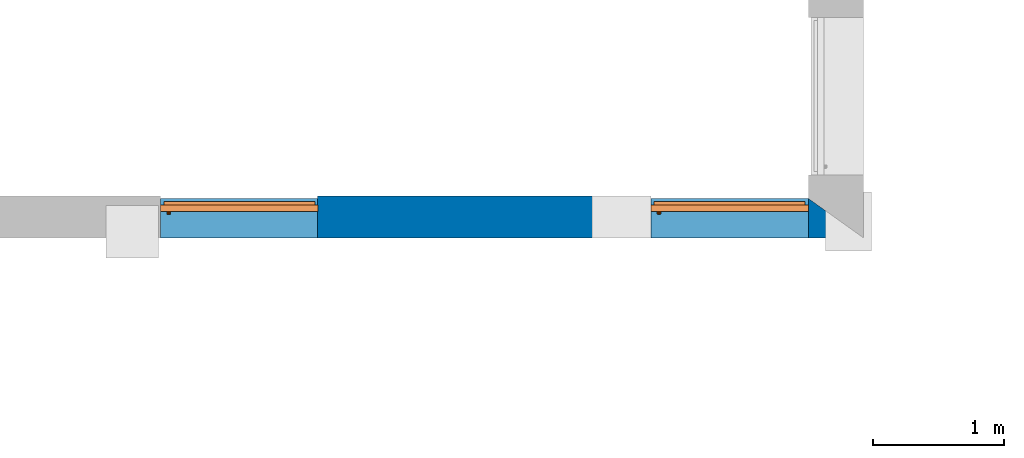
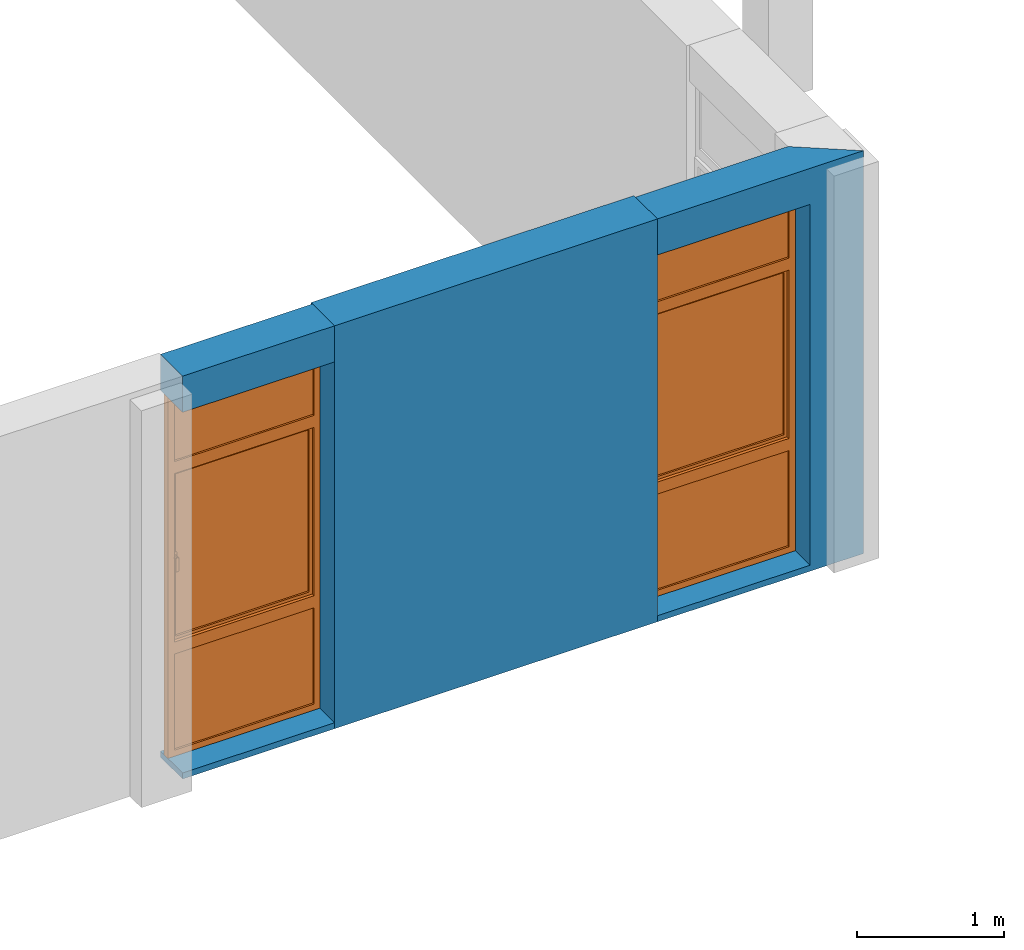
# One storey, part 6 of 11: 3 walls, 2 proxies, 2 openings.
"""IFC2X3 building model written with IfcOpenShell, lengths in millimetres."""

from ifc_helpers import new_model, entity, si_unit, converted_unit, derived_unit, money_unit, direction, frame, origin_with_axes, origin_2d_with_axis, place, context, subcontext, project, spatial, polyline, rectangle, outline, extrude, open_shell, faceted_brep, surface_model, source, transform, mapped, material, layer, layer_set, layer_usage, type_object, element, fill, save


model = new_model("IFC2X3")

# Units and contexts
model_context = context("Model", 3, precision=0.01, world=origin_with_axes(), true_north=direction((0.0, 1.0)))
body_context = subcontext(model_context, "Body", "Model", "MODEL_VIEW")
ifc_project = project(units=[si_unit("LENGTHUNIT", "METRE", prefix="MILLI"), si_unit("AREAUNIT", "SQUARE_METRE"), si_unit("VOLUMEUNIT", "CUBIC_METRE"), converted_unit("PLANEANGLEUNIT", "DEGREE", entity("IfcPlaneAngleMeasure", 0.0174532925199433), si_unit("PLANEANGLEUNIT", "RADIAN"), dimensions=[0, 0, 0, 0, 0, 0, 0]), money_unit("USD"), converted_unit("TIMEUNIT", "Year", entity("IfcTimeMeasure", 31557600.0), si_unit("TIMEUNIT", "SECOND"), dimensions=[0, 0, 1, 0, 0, 0, 0]), si_unit("MASSUNIT", "GRAM", prefix="KILO"), si_unit("THERMODYNAMICTEMPERATUREUNIT", "DEGREE_CELSIUS"), si_unit("LUMINOUSINTENSITYUNIT", "LUMEN"), si_unit("ENERGYUNIT", "JOULE", prefix="MEGA"), derived_unit("THERMALCONDUCTANCEUNIT", [(si_unit("POWERUNIT", "WATT"), 1), (si_unit("LENGTHUNIT", "METRE"), -1), (si_unit("THERMODYNAMICTEMPERATUREUNIT", "KELVIN"), -1)]), derived_unit("SPECIFICHEATCAPACITYUNIT", [(si_unit("ENERGYUNIT", "JOULE"), 1), (si_unit("MASSUNIT", "GRAM", prefix="KILO"), -1), (si_unit("THERMODYNAMICTEMPERATUREUNIT", "KELVIN"), -1)]), derived_unit("MASSDENSITYUNIT", [(si_unit("MASSUNIT", "GRAM", prefix="KILO"), 1), (si_unit("VOLUMEUNIT", "CUBIC_METRE"), -1)])], contexts=[model_context])

# Site, building, storey
site_placement = place(None, origin_with_axes())
site = spatial("IfcSite", under=ifc_project, at=site_placement, Name="Sitio", CompositionType="ELEMENT")
building_placement = place(site_placement, origin_with_axes())
building = spatial("IfcBuilding", under=site, at=building_placement, Name="Construcción", CompositionType="ELEMENT")
storey_placement = place(building_placement, frame((0.0, 0.0, -3650.0), z_axis=(0.0, 0.0, 1.0), x_axis=(1.0, 0.0, 0.0)))
storey = spatial("IfcBuildingStorey", under=building, at=storey_placement, Name="-1. Piso", CompositionType="ELEMENT", Elevation=-3650.0)

# Wall, opening, proxy
ifc_material_1 = material(Name="ARQ_AM246_Arrebossat_De_Guix")
ifc_layer_1 = layer(ifc_material_1, 20.0, ventilated="UNKNOWN")
ifc_material_2 = material(Name="ARQ_CE217_Gero")
ifc_layer_2 = layer(ifc_material_2, 110.0, ventilated="UNKNOWN")
ifc_material_3 = material(Name="ARQ_AI031_Aillament_Poliestireno expandido EPS")
ifc_layer_3 = layer(ifc_material_3, 100.0, ventilated="UNKNOWN")
ifc_material_4 = material(Name="ARQ_CE218_Ceramic")
ifc_layer_4 = layer(ifc_material_4, 50.0, ventilated="UNKNOWN")
ifc_layer_5 = layer(ifc_material_1, 20.0, ventilated="UNKNOWN")
ifc_layer_set_1 = layer_set([ifc_layer_1, ifc_layer_2, ifc_layer_3, ifc_layer_4, ifc_layer_5], Name="façana pati CR3 (ampit)")
ifc_layer_usage_1 = layer_usage(ifc_layer_set_1, "AXIS2", "POSITIVE", -300.0000000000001)
wall_type_1 = type_object("IfcWallType", Name="façana pati CR3 (ampit) 300", PredefinedType="NOTDEFINED")
wall_1_placement = place(storey_placement, frame((-5841.109004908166, -12338.97582371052, 0.0), z_axis=(0.0, 0.0, 1.0), x_axis=(-1.0, 0.0, 0.0)))
wall_1 = element("IfcWallStandardCase", 1, at=wall_1_placement, inside=storey, type_object=wall_type_1, material=ifc_layer_usage_1, Name="MS-201", context=body_context, shape_type="SweptSolid", body=[
    extrude(outline(polyline([(0.0, -300.0000000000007), (1194.999999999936, -300.0000000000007), (1194.999999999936, 0.0), (0.0, 0.0), (0.0, -300.0000000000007)])), origin_with_axes(), (0.0, 0.0, 1.0), 3350.0),
])
opening_1_placement = place(wall_1_placement, frame((594.9999999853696, 0.0, 49.99999999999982), z_axis=(0.0, 0.0, 1.0), x_axis=(1.0, 0.0, 0.0)))
opening_1 = element("IfcOpeningElement", 2, at=opening_1_placement, cuts=wall_1, Name="V - 008", context=body_context, shape_type="SweptSolid", body=[
    extrude(rectangle(XDim=1200.000000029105, YDim=3000.0, at=origin_2d_with_axis()), frame((0.0, -250.0, 1500.0), z_axis=(0.0, -1.0, 0.0), x_axis=(-1.0, 0.0, 0.0)), (0.0, 0.0, -1.0), 550.0),
    extrude(rectangle(XDim=1200.000000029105, YDim=3000.0, at=origin_2d_with_axis()), frame((0.0, -250.0, 1500.0), z_axis=(0.0, 1.0, 0.0), x_axis=(-1.0, 0.0, 0.0)), (0.0, 0.0, -1.0), 350.0000000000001),
])
building_element_proxy_type = type_object("IfcBuildingElementProxyType", Name="Ventana Vertical Multi-Faja 27", PredefinedType="NOTDEFINED")
shared_shape = source(origin_with_axes(), body_context, "Body", "SurfaceModel", [
    faceted_brep([(-575.0000000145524, 0.0, 925.0), (-550.0000000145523, 0.0, 925.0), (-550.0000000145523, 0.0, 850.0), (-550.0000000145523, 0.0, 50.00000000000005), (-600.0000000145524, 0.0, 50.00000000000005), (-600.0000000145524, 0.0, 2950.0), (-550.0000000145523, 0.0, 2950.0), (-550.0000000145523, 0.0, 2450.0), (-550.0000000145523, 0.0, 2375.0), (-575.0000000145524, 0.0, 2375.0), (-575.0000000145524, -25.00000000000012, 925.0), (-550.0000000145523, -25.00000000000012, 925.0), (-550.0000000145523, -25.00000000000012, 950.0000000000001), (-550.0000000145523, -50.00000000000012, 950.0000000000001), (-550.0000000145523, -50.00000000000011, 850.0), (-550.0000000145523, -50.00000000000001, 50.00000000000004), (-600.0000000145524, -50.00000000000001, 50.00000000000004), (-600.0000000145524, -50.00000000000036, 2950.0), (-550.0000000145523, -50.00000000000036, 2950.0), (-550.0000000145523, -50.0000000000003, 2450.0), (-550.0000000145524, -25.00000000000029, 2375.0), (-550.0000000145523, -50.00000000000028, 2350.0), (-550.0000000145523, -25.00000000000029, 2350.0), (-575.0000000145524, -25.00000000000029, 2375.0)], [[[0, 1, 2, 3, 4, 5, 6, 7, 8, 9]], [[0, 10, 11, 1]], [[11, 12, 13, 14, 2, 1]], [[3, 2, 14, 15]], [[4, 3, 15, 16]], [[5, 4, 16, 17]], [[6, 5, 17, 18]], [[7, 6, 18, 19]], [[20, 8, 7, 19, 21, 22]], [[20, 23, 9, 8]], [[9, 23, 10, 0]], [[22, 12, 11, 10, 23, 20]], [[22, 21, 13, 12]], [[17, 16, 15, 14, 13, 21, 19, 18]]]),
    faceted_brep([(575.0000000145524, 0.0, 925.0), (575.0000000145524, 0.0, 2375.0), (550.0000000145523, 0.0, 2375.0), (550.0000000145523, 0.0, 2450.0), (550.0000000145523, 0.0, 2950.0), (600.0000000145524, 0.0, 2950.0), (600.0000000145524, 0.0, 50.00000000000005), (550.0000000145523, 0.0, 50.00000000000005), (550.0000000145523, 0.0, 850.0), (550.0000000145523, 0.0, 925.0), (575.0000000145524, -25.00000000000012, 925.0), (575.0000000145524, -25.00000000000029, 2375.0), (550.0000000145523, -25.00000000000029, 2375.0), (550.0000000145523, -25.00000000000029, 2350.0), (550.0000000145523, -50.00000000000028, 2350.0), (550.0000000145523, -50.0000000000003, 2450.0), (550.0000000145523, -50.00000000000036, 2950.0), (600.0000000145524, -50.00000000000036, 2950.0), (600.0000000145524, -50.00000000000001, 50.00000000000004), (550.0000000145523, -50.00000000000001, 50.00000000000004), (550.0000000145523, -50.00000000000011, 850.0), (550.0000000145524, -25.00000000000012, 925.0), (550.0000000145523, -50.00000000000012, 950.0000000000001), (550.0000000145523, -25.00000000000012, 950.0000000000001)], [[[0, 1, 2, 3, 4, 5, 6, 7, 8, 9]], [[0, 10, 11, 1]], [[1, 11, 12, 2]], [[12, 13, 14, 15, 3, 2]], [[4, 3, 15, 16]], [[5, 4, 16, 17]], [[6, 5, 17, 18]], [[7, 6, 18, 19]], [[8, 7, 19, 20]], [[21, 9, 8, 20, 22, 23]], [[9, 21, 10, 0]], [[12, 11, 10, 21, 23, 13]], [[23, 22, 14, 13]], [[14, 22, 20, 19, 18, 17, 16, 15]]]),
    faceted_brep([(-550.0000000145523, -25.00000000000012, 950.0000000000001), (-550.0000000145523, -50.00000000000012, 950.0000000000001), (550.0000000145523, -50.00000000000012, 950.0000000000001), (550.0000000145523, -25.00000000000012, 950.0000000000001), (-550.0000000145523, -25.00000000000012, 925.0), (-550.0000000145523, 0.0, 925.0), (-550.0000000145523, 0.0, 850.0), (-550.0000000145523, -50.00000000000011, 850.0), (550.0000000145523, -50.00000000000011, 850.0), (550.0000000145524, -25.00000000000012, 925.0), (550.0000000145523, 0.0, 850.0), (550.0000000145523, 0.0, 925.0)], [[[0, 1, 2, 3]], [[4, 5, 6, 7, 1, 0]], [[1, 7, 8, 2]], [[9, 3, 2, 8, 10, 11]], [[9, 4, 0, 3]], [[5, 4, 9, 11]], [[11, 10, 6, 5]], [[6, 10, 8, 7]]]),
    faceted_brep([(-550.0000000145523, 0.0, 2375.0), (-550.0000000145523, 0.0, 2450.0), (550.0000000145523, 0.0, 2450.0), (550.0000000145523, 0.0, 2375.0), (-550.0000000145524, -25.00000000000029, 2375.0), (-550.0000000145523, -25.00000000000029, 2350.0), (-550.0000000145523, -50.00000000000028, 2350.0), (-550.0000000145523, -50.0000000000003, 2450.0), (550.0000000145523, -50.0000000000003, 2450.0), (550.0000000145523, -25.00000000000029, 2375.0), (550.0000000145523, -50.00000000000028, 2350.0), (550.0000000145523, -25.00000000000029, 2350.0)], [[[0, 1, 2, 3]], [[4, 5, 6, 7, 1, 0]], [[2, 1, 7, 8]], [[9, 3, 2, 8, 10, 11]], [[9, 4, 0, 3]], [[11, 5, 4, 9]], [[11, 10, 6, 5]], [[7, 6, 10, 8]]]),
    faceted_brep([(550.0000000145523, -50.00000000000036, 2950.0), (550.0000000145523, 0.0, 2950.0), (600.0000000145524, 0.0, 2950.0), (600.0000000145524, -50.00000000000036, 2950.0), (-550.0000000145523, -50.00000000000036, 2950.0), (-550.0000000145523, 0.0, 2950.0), (-600.0000000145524, 0.0, 2950.0), (-600.0000000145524, 0.0, 3000.0), (600.0000000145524, 0.0, 3000.0), (600.0000000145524, -50.00000000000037, 3000.0), (-600.0000000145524, -50.00000000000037, 3000.0), (-600.0000000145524, -50.00000000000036, 2950.0)], [[[0, 1, 2, 3]], [[4, 5, 1, 0]], [[1, 5, 6, 7, 8, 2]], [[3, 2, 8, 9]], [[0, 3, 9, 10, 11, 4]], [[11, 6, 5, 4]], [[10, 7, 6, 11]], [[9, 8, 7, 10]]]),
    faceted_brep([(-550.0000000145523, -50.00000000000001, 50.0), (-550.0000000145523, 0.0, 50.00000000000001), (-600.0000000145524, 0.0, 50.00000000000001), (-600.0000000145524, -50.00000000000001, 50.0), (550.0000000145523, -50.00000000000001, 50.0), (550.0000000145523, 0.0, 50.00000000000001), (600.0000000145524, 0.0, 50.00000000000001), (600.0000000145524, 0.0, 0.0), (-600.0000000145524, 0.0, 0.0), (-600.0000000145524, -50.0, 0.0), (600.0000000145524, -50.0, 0.0), (600.0000000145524, -50.00000000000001, 50.0)], [[[0, 1, 2, 3]], [[4, 5, 1, 0]], [[1, 5, 6, 7, 8, 2]], [[3, 2, 8, 9]], [[0, 3, 9, 10, 11, 4]], [[11, 6, 5, 4]], [[10, 7, 6, 11]], [[9, 8, 7, 10]]]),
    surface_model("IfcShellBasedSurfaceModel", [(-550.0000000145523, -35.0, 49.99999999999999), (550.0000000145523, -35.0, 49.99999999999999), (550.0000000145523, -35.0000000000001, 850.0), (-550.0000000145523, -35.0000000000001, 850.0)], [open_shell([[[0, 1, 2, 3]]])]),
    surface_model("IfcShellBasedSurfaceModel", [(-550.0000000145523, -15.0, 49.99999999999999), (-550.0000000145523, -15.0000000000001, 850.0), (550.0000000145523, -15.0000000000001, 850.0), (550.0000000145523, -15.0, 49.99999999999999)], [open_shell([[[0, 1, 2, 3]]])]),
    faceted_brep([(-521.5000000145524, -25.00000000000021, 1677.0), (-522.839745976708, -25.00000000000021, 1682.0), (-522.839745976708, -37.00000000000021, 1682.0), (-521.5000000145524, -37.00000000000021, 1677.0), (-521.5000000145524, -25.0000000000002, 1623.0), (-522.839745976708, -25.0000000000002, 1618.0), (-526.5000000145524, -25.0000000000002, 1614.339745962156), (-531.5000000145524, -25.0000000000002, 1613.0), (-543.5000000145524, -25.0000000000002, 1613.0), (-548.5000000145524, -25.0000000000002, 1614.339745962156), (-552.1602540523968, -25.0000000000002, 1618.0), (-553.5000000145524, -25.0000000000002, 1623.0), (-553.5000000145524, -25.00000000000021, 1677.0), (-552.1602540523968, -25.00000000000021, 1682.0), (-548.5000000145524, -25.00000000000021, 1685.660254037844), (-543.5000000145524, -25.00000000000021, 1687.0), (-531.5000000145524, -25.00000000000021, 1687.0), (-526.5000000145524, -25.00000000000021, 1685.660254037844), (-526.5000000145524, -37.00000000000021, 1685.660254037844), (-531.5000000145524, -37.00000000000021, 1687.0), (-543.5000000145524, -37.00000000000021, 1687.0), (-548.5000000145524, -37.00000000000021, 1685.660254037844), (-552.1602540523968, -37.00000000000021, 1682.0), (-553.5000000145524, -37.00000000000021, 1677.0), (-553.5000000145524, -37.0000000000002, 1623.0), (-552.1602540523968, -37.0000000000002, 1618.0), (-548.5000000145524, -37.0000000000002, 1614.339745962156), (-543.5000000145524, -37.0000000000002, 1613.0), (-531.5000000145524, -37.0000000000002, 1613.0), (-526.5000000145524, -37.0000000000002, 1614.339745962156), (-522.839745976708, -37.0000000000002, 1618.0), (-521.5000000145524, -37.0000000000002, 1623.0)], [[[0, 1, 2, 3]], [[0, 4, 5, 6, 7, 8, 9, 10, 11, 12, 13, 14, 15, 16, 17, 1]], [[1, 17, 18, 2]], [[3, 2, 18, 19, 20, 21, 22, 23, 24, 25, 26, 27, 28, 29, 30, 31]], [[4, 0, 3, 31]], [[5, 4, 31, 30]], [[6, 5, 30, 29]], [[7, 6, 29, 28]], [[8, 7, 28, 27]], [[9, 8, 27, 26]], [[10, 9, 26, 25]], [[11, 10, 25, 24]], [[12, 11, 24, 23]], [[13, 12, 23, 22]], [[14, 13, 22, 21]], [[15, 14, 21, 20]], [[16, 15, 20, 19]], [[17, 16, 19, 18]]]),
    faceted_brep([(-537.5000000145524, -37.0000000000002, 1663.5), (-544.2500000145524, -37.0000000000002, 1661.69134295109), (-544.2500000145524, -61.00000000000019, 1661.69134295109), (-537.5000000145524, -61.00000000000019, 1663.5), (-530.7500000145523, -37.0000000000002, 1661.69134295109), (-525.8086570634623, -37.0000000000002, 1656.75), (-524.0000000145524, -37.0000000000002, 1650.0), (-525.8086570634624, -37.0000000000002, 1643.25), (-530.7500000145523, -37.0000000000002, 1638.30865704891), (-537.5000000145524, -37.0000000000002, 1636.5), (-544.2500000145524, -37.0000000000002, 1638.30865704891), (-549.1913429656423, -37.0000000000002, 1643.25), (-551.0000000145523, -37.0000000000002, 1650.0), (-549.1913429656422, -37.0000000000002, 1656.75), (-549.1913429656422, -61.00000000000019, 1656.75), (-551.0000000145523, -61.00000000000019, 1650.0), (-549.1913429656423, -61.00000000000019, 1643.25), (-544.2500000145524, -61.00000000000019, 1638.30865704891), (-537.5000000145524, -61.00000000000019, 1636.5), (-530.7500000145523, -61.00000000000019, 1638.30865704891), (-525.8086570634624, -61.00000000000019, 1643.25), (-524.0000000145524, -61.00000000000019, 1650.0), (-525.8086570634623, -61.00000000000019, 1656.75), (-530.7500000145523, -61.00000000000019, 1661.69134295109)], [[[0, 1, 2, 3]], [[0, 4, 5, 6, 7, 8, 9, 10, 11, 12, 13, 1]], [[1, 13, 14, 2]], [[3, 2, 14, 15, 16, 17, 18, 19, 20, 21, 22, 23]], [[4, 0, 3, 23]], [[5, 4, 23, 22]], [[6, 5, 22, 21]], [[7, 6, 21, 20]], [[8, 7, 20, 19]], [[9, 8, 19, 18]], [[10, 9, 18, 17]], [[11, 10, 17, 16]], [[12, 11, 16, 15]], [[13, 12, 15, 14]]]),
    faceted_brep([(-526.0000000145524, -61.00000000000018, 1543.0), (-537.5000000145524, -61.00000000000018, 1540.0), (-549.0000000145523, -61.00000000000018, 1543.0), (-551.0000000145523, -61.00000000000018, 1546.0), (-551.0000000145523, -61.00000000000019, 1650.0), (-549.1913429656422, -61.00000000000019, 1656.75), (-544.2500000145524, -61.00000000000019, 1661.69134295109), (-537.5000000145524, -61.00000000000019, 1663.5), (-530.7500000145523, -61.00000000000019, 1661.69134295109), (-525.8086570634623, -61.00000000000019, 1656.75), (-524.0000000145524, -61.00000000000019, 1650.0), (-524.0000000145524, -61.00000000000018, 1546.0), (-525.9999999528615, -69.00000000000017, 1543.000000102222), (-537.4999999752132, -69.00000000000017, 1539.999999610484), (-548.9999999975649, -69.00000000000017, 1543.000000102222), (-551.0000003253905, -69.00000000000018, 1545.999999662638), (-551.0000003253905, -69.0000000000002, 1649.99999994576), (-549.1913430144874, -69.0000000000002, 1656.749999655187), (-544.2499996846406, -69.0000000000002, 1661.691342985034), (-537.4999999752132, -69.0000000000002, 1663.500000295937), (-530.7500002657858, -69.0000000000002, 1661.691342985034), (-525.808656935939, -69.0000000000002, 1656.749999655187), (-523.9999996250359, -69.0000000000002, 1649.99999994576), (-523.9999996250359, -69.00000000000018, 1545.999999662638), (-527.8625374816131, -71.99999956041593, 1545.61451963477), (-537.4999999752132, -71.99999956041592, 1543.100398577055), (-547.1374624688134, -71.99999956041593, 1545.61451963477), (-548.0000007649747, -71.99999956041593, 1546.908326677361), (-548.0000007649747, -71.99999956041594, 1649.605042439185), (-546.5016170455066, -71.99999956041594, 1655.197085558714), (-542.6970855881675, -71.99999956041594, 1659.001617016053), (-537.4999999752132, -71.99999956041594, 1660.394172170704), (-532.302914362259, -71.99999956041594, 1659.001617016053), (-528.4983829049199, -71.99999956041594, 1655.197085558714), (-526.9999991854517, -71.99999956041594, 1649.605042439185), (-526.9999991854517, -71.99999956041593, 1546.908326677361)], [[[0, 1, 2, 3, 4, 5, 6, 7, 8, 9, 10, 11]], [[1, 0, 12, 13]], [[2, 1, 13, 14]], [[3, 2, 14, 15]], [[4, 3, 15, 16]], [[5, 4, 16, 17]], [[6, 5, 17, 18]], [[7, 6, 18, 19]], [[8, 7, 19, 20]], [[9, 8, 20, 21]], [[10, 9, 21, 22]], [[11, 10, 22, 23]], [[0, 11, 23, 12]], [[13, 12, 24, 25]], [[14, 13, 25, 26]], [[15, 14, 26, 27]], [[16, 15, 27, 28]], [[17, 16, 28, 29]], [[18, 17, 29, 30]], [[19, 18, 30, 31]], [[20, 19, 31, 32]], [[21, 20, 32, 33]], [[22, 21, 33, 34]], [[23, 22, 34, 35]], [[12, 23, 35, 24]], [[26, 25, 24, 35, 34, 33, 32, 31, 30, 29, 28, 27]]]),
    faceted_brep([(-525.0000000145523, -25.00000000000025, 2325.0), (-525.0000000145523, 24.99999999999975, 2325.0), (-575.0000000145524, 24.99999999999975, 2325.0), (-575.0000000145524, -25.00000000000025, 2325.0), (-525.0000000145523, -25.00000000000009, 975.0000000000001), (-525.0000000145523, 24.99999999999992, 975.0000000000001), (-575.0000000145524, 24.99999999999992, 975.0000000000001), (-575.0000000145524, -25.00000000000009, 975.0000000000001)], [[[0, 1, 2, 3]], [[4, 5, 1, 0]], [[1, 5, 6, 2]], [[3, 2, 6, 7]], [[0, 3, 7, 4]], [[7, 6, 5, 4]]]),
    faceted_brep([(525.0000000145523, -25.00000000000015, 975.0000000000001), (525.0000000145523, 24.99999999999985, 975.0000000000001), (575.0000000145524, 24.99999999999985, 975.0000000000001), (575.0000000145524, -25.00000000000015, 975.0000000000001), (525.0000000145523, -25.00000000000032, 2325.0), (525.0000000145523, 24.99999999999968, 2325.0), (575.0000000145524, 24.99999999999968, 2325.0), (575.0000000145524, -25.00000000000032, 2325.0)], [[[0, 1, 2, 3]], [[4, 5, 1, 0]], [[1, 5, 6, 2]], [[3, 2, 6, 7]], [[0, 3, 7, 4]], [[7, 6, 5, 4]]]),
    faceted_brep([(575.0000000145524, -25.00000000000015, 925.0), (575.0000000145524, 24.99999999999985, 925.0), (575.0000000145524, 24.99999999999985, 975.0000000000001), (575.0000000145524, -25.00000000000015, 975.0000000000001), (-575.0000000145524, -25.00000000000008, 925.0), (-575.0000000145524, 24.99999999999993, 925.0), (-575.0000000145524, 24.99999999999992, 975.0000000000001), (-525.0000000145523, 24.99999999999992, 975.0000000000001), (525.0000000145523, 24.99999999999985, 975.0000000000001), (525.0000000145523, -25.00000000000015, 975.0000000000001), (-525.0000000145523, -25.00000000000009, 975.0000000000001), (-575.0000000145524, -25.00000000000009, 975.0000000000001)], [[[0, 1, 2, 3]], [[4, 5, 1, 0]], [[1, 5, 6, 7, 8, 2]], [[3, 2, 8, 9]], [[0, 3, 9, 10, 11, 4]], [[11, 6, 5, 4]], [[10, 7, 6, 11]], [[9, 8, 7, 10]]]),
    faceted_brep([(-575.0000000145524, -25.00000000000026, 2375.0), (-575.0000000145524, 24.99999999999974, 2375.0), (-575.0000000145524, 24.99999999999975, 2325.0), (-575.0000000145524, -25.00000000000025, 2325.0), (575.0000000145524, -25.00000000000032, 2375.0), (575.0000000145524, 24.99999999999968, 2375.0), (575.0000000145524, 24.99999999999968, 2325.0), (525.0000000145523, 24.99999999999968, 2325.0), (-525.0000000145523, 24.99999999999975, 2325.0), (-525.0000000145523, -25.00000000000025, 2325.0), (525.0000000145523, -25.00000000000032, 2325.0), (575.0000000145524, -25.00000000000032, 2325.0)], [[[0, 1, 2, 3]], [[4, 5, 1, 0]], [[1, 5, 6, 7, 8, 2]], [[3, 2, 8, 9]], [[0, 3, 9, 10, 11, 4]], [[11, 6, 5, 4]], [[10, 7, 6, 11]], [[9, 8, 7, 10]]]),
    surface_model("IfcShellBasedSurfaceModel", [(-525.0000000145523, -10.00000000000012, 975.0000000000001), (525.0000000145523, -10.00000000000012, 975.0000000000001), (525.0000000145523, -10.00000000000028, 2325.0), (-525.0000000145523, -10.00000000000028, 2325.0)], [open_shell([[[0, 1, 2, 3]]])]),
    surface_model("IfcShellBasedSurfaceModel", [(-525.0000000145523, 9.999999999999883, 975.0000000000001), (-525.0000000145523, 9.99999999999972, 2325.0), (525.0000000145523, 9.99999999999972, 2325.0), (525.0000000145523, 9.999999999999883, 975.0000000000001)], [open_shell([[[0, 1, 2, 3]]])]),
    surface_model("IfcShellBasedSurfaceModel", [(-550.0000000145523, -35.0000000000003, 2450.0), (550.0000000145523, -35.0000000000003, 2450.0), (550.0000000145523, -35.00000000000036, 2950.0), (-550.0000000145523, -35.00000000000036, 2950.0)], [open_shell([[[0, 1, 2, 3]]])]),
    surface_model("IfcShellBasedSurfaceModel", [(-550.0000000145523, -15.0000000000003, 2450.0), (-550.0000000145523, -15.00000000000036, 2950.0), (550.0000000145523, -15.00000000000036, 2950.0), (550.0000000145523, -15.0000000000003, 2450.0)], [open_shell([[[0, 1, 2, 3]]])]),
])
proxy_1_placement = place(opening_1_placement, frame((600.0000000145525, 0.0, 0.0), z_axis=(0.0, 0.0, 1.0), x_axis=(-1.0, 0.0, 0.0)))
proxy_1 = element("IfcBuildingElementProxy", 3, at=proxy_1_placement, inside=storey, type_object=building_element_proxy_type, Name="V - 008", context=body_context, shape_type="MappedRepresentation", body=[
    mapped(shared_shape, transform((600.0000000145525, 250.0, 0.0))),
])
fill(opening_1, proxy_1)

ifc_layer_usage_2 = layer_usage(ifc_layer_set_1, "AXIS2", "POSITIVE", -300.0000000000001)
wall_2_placement = place(storey_placement, frame((-1681.109004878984, -12338.97582371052, 0.0), z_axis=(0.0, 0.0, 1.0), x_axis=(-1.0, 0.0, 0.0)))
wall_2 = element("IfcWallStandardCase", 4, at=wall_2_placement, inside=storey, type_object=wall_type_1, material=ifc_layer_usage_2, Name="MS-201", context=body_context, shape_type="SweptSolid", body=[
    extrude(outline(polyline([(419.9999999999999, -300.0000000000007), (1620.000000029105, -300.0000000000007), (1620.000000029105, 0.0), (0.0, 0.0), (419.9999999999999, -300.0000000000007)])), origin_with_axes(), (0.0, 0.0, 1.0), 3350.0),
])
opening_2_placement = place(wall_2_placement, frame((1020.000000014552, 0.0, 49.99999999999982), z_axis=(0.0, 0.0, 1.0), x_axis=(1.0, 0.0, 0.0)))
opening_2 = element("IfcOpeningElement", 5, at=opening_2_placement, cuts=wall_2, Name="V - 008", context=body_context, shape_type="SweptSolid", body=[
    extrude(rectangle(XDim=1200.000000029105, YDim=3000.0, at=origin_2d_with_axis()), frame((0.0, -250.0, 1500.0), z_axis=(0.0, -1.0, 0.0), x_axis=(-1.0, 0.0, 0.0)), (0.0, 0.0, -1.0), 550.0),
    extrude(rectangle(XDim=1200.000000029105, YDim=3000.0, at=origin_2d_with_axis()), frame((0.0, -250.0, 1500.0), z_axis=(0.0, 1.0, 0.0), x_axis=(-1.0, 0.0, 0.0)), (0.0, 0.0, -1.0), 350.0000000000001),
])
proxy_2_placement = place(opening_2_placement, frame((600.0000000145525, 0.0, 0.0), z_axis=(0.0, 0.0, 1.0), x_axis=(-1.0, 0.0, 0.0)))
proxy_2 = element("IfcBuildingElementProxy", 6, at=proxy_2_placement, inside=storey, type_object=building_element_proxy_type, Name="V - 008", context=body_context, shape_type="MappedRepresentation", body=[
    mapped(shared_shape, transform((600.0000000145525, 250.0, 0.0))),
])
fill(opening_2, proxy_2)

# Wall
ifc_layer_6 = layer(ifc_material_2, 150.0, ventilated="UNKNOWN")
ifc_layer_7 = layer(ifc_material_3, 100.0, ventilated="UNKNOWN")
ifc_layer_8 = layer(ifc_material_4, 50.0, ventilated="UNKNOWN")
ifc_layer_9 = layer(ifc_material_1, 20.0, ventilated="UNKNOWN")
ifc_layer_set_2 = layer_set([ifc_layer_6, ifc_layer_7, ifc_layer_8, ifc_layer_9], Name="façana pati CR3")
ifc_layer_usage_3 = layer_usage(ifc_layer_set_2, "AXIS2", "POSITIVE", -320.0)
wall_type_2 = type_object("IfcWallType", Name="façana pati CR3 320", PredefinedType="NOTDEFINED")
wall_3_placement = place(storey_placement, frame((-3301.109004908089, -12338.97582371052, 0.0), z_axis=(0.0, 0.0, 1.0), x_axis=(-1.0, 0.0, 0.0)))
element("IfcWallStandardCase", 7, at=wall_3_placement, inside=storey, type_object=wall_type_2, material=ifc_layer_usage_3, Name="MS-201", context=body_context, shape_type="SweptSolid", body=[
    extrude(outline(polyline([(0.0, -320.0000000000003), (2540.000000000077, -320.0000000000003), (2540.000000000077, 0.0), (0.0, 0.0), (0.0, -320.0000000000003)])), origin_with_axes(), (0.0, 0.0, 1.0), 3350.0),
])

save(model, "model.ifc")
